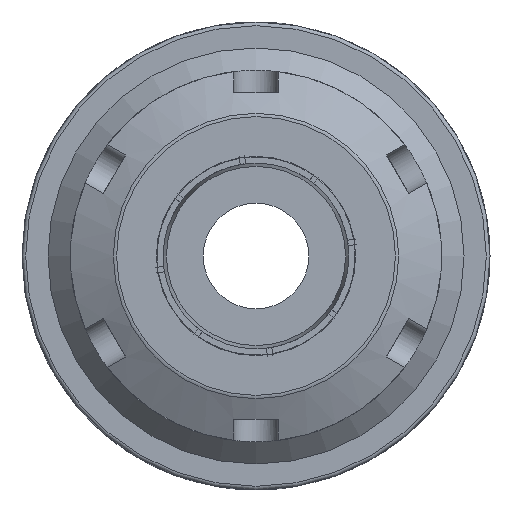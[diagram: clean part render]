
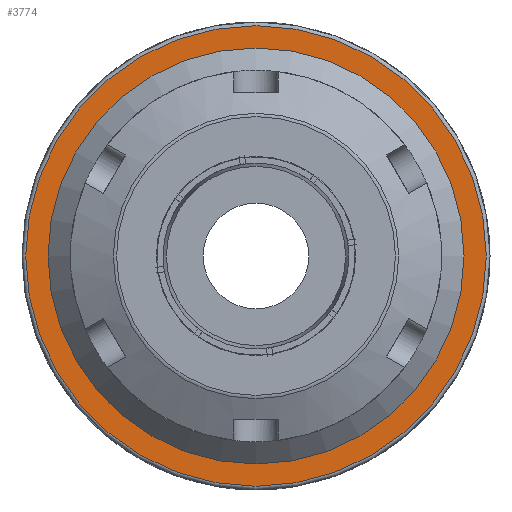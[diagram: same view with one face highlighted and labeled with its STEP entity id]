
A CAD part, front view. The second image highlights one B-rep face of the part: STEP entity #3774.
In plain terms, the highlighted planar face has unit normal (0, -1, 0).
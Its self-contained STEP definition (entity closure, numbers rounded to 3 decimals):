
#237=FACE_BOUND('',#597,.T.);
#250=PLANE('',#4084);
#386=FACE_OUTER_BOUND('',#596,.T.);
#596=EDGE_LOOP('',(#2571));
#597=EDGE_LOOP('',(#2572));
#1358=CIRCLE('',#4081,28.);
#1361=CIRCLE('',#4085,31.);
#1567=VERTEX_POINT('',#5633);
#1570=VERTEX_POINT('',#5641);
#1967=EDGE_CURVE('',#1567,#1567,#1358,.T.);
#1971=EDGE_CURVE('',#1570,#1570,#1361,.T.);
#2571=ORIENTED_EDGE('',*,*,#1971,.F.);
#2572=ORIENTED_EDGE('',*,*,#1967,.F.);
#3774=ADVANCED_FACE('',(#386,#237),#250,.T.);
#4081=AXIS2_PLACEMENT_3D('',#5634,#4519,#4520);
#4084=AXIS2_PLACEMENT_3D('',#5640,#4526,#4527);
#4085=AXIS2_PLACEMENT_3D('',#5642,#4528,#4529);
#4519=DIRECTION('center_axis',(0.,-1.,0.));
#4520=DIRECTION('ref_axis',(-1.,0.,0.));
#4526=DIRECTION('center_axis',(0.,-1.,0.));
#4527=DIRECTION('ref_axis',(0.,0.,-1.));
#4528=DIRECTION('center_axis',(0.,1.,0.));
#4529=DIRECTION('ref_axis',(-1.,0.,0.));
#5633=CARTESIAN_POINT('',(28.,30.,0.));
#5634=CARTESIAN_POINT('Origin',(0.,30.,0.));
#5640=CARTESIAN_POINT('Origin',(31.5,30.,0.));
#5641=CARTESIAN_POINT('',(0.,30.,-31.));
#5642=CARTESIAN_POINT('Origin',(0.,30.,0.));
